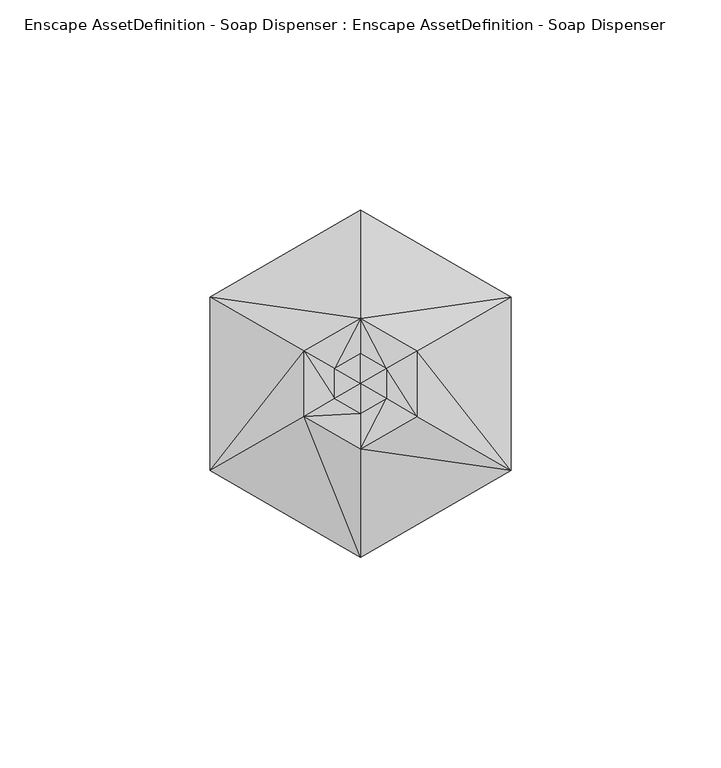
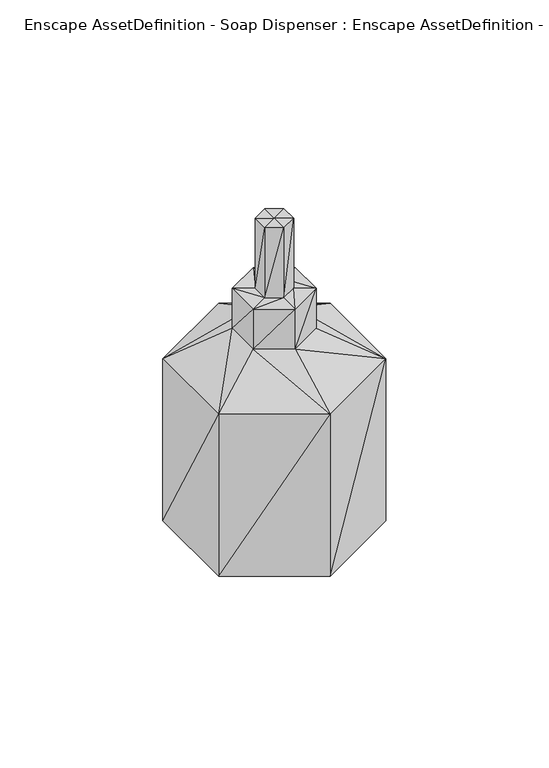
"""IFC4 building model written with IfcOpenShell, lengths in millimetres: geographic element geometry, Enscape AssetDefinition - Soap Dispenser : Enscape AssetDefinition - Soap Dispenser."""

from ifc_helpers import new_model, si_unit, origin, place, context, project, spatial, faceted_brep, source, transform, mapped, element, save


def enscape_assetdefinition_soap_dispenser_enscape_fff8258c(model_context):
    return source(origin(), model_context, "Body", "Brep", [
        faceted_brep([(16.0678644, 9.2767905, 0.0), (35.7406549, 20.6348673, 13.1364549), (16.0678644, -9.2767905, 0.0), (35.7406549, -20.6348673, 13.1364549), (0.0, -18.5535811, 0.0), (0.0, 0.0, 0.0), (0.0, 18.5535811, 0.0), (-16.0678644, -9.2767905, 0.0), (-16.0678644, 9.2767905, 0.0), (0.0, -41.2697494, 13.1364549), (35.7406549, -20.6348673, 86.456202), (35.7406549, 20.6348673, 86.456202), (0.0, -41.2697494, 86.456202), (-35.7406549, -20.634884, 13.1364549), (-35.7406549, 20.6348673, 13.1364549), (-35.7406549, -20.634884, 86.456202), (0.0, -15.5136883, 100.2036631), (-13.4352418, -7.7568442, 100.2036631), (-13.4352418, 7.7568442, 100.2036631), (-35.7406549, 20.6348673, 86.456202), (0.0, 41.2697494, 13.1364549), (0.0, 15.5136883, 100.2036631), (0.0, 41.2697494, 86.456202), (-13.4352418, -7.7568442, 118.2280928), (-13.4352418, 7.7568442, 118.2280928), (0.0, 15.5136883, 118.2280928), (13.4352604, 7.7568442, 100.2036631), (13.4352604, 7.7568442, 118.2280928), (13.4352604, -7.7568442, 100.2036631), (13.4352604, -7.7568442, 118.2280928), (6.1707911, 3.5627142, 118.2280928), (6.1707911, -3.5627142, 118.2280928), (0.0, -15.5136883, 118.2280928), (0.0, -7.1254103, 118.2280928), (6.1707911, -3.5627142, 149.9999911), (6.1707911, 3.5627142, 149.9999911), (0.0, -7.1254103, 149.9999911), (-6.1707911, -3.5627142, 118.2280928), (-6.1707911, -3.5627142, 149.9999911), (-6.1707911, 3.5627142, 118.2280928), (0.0, 0.0, 150.000006), (0.0, 7.1254103, 149.9999911), (-6.1707911, 3.5627142, 149.9999911), (0.0, 7.1254103, 118.2280928)], [[[0, 1, 2]], [[2, 3, 4]], [[5, 0, 2]], [[5, 2, 4]], [[1, 3, 2]], [[5, 6, 0]], [[1, 0, 6]], [[5, 4, 7]], [[5, 8, 6]], [[5, 7, 8]], [[4, 9, 7]], [[3, 9, 4]], [[3, 10, 9]], [[1, 11, 3]], [[11, 10, 3]], [[9, 12, 13]], [[9, 13, 7]], [[10, 12, 9]], [[7, 13, 8]], [[8, 14, 6]], [[13, 14, 8]], [[13, 15, 14]], [[12, 15, 13]], [[16, 17, 12]], [[17, 15, 12]], [[16, 12, 10]], [[17, 18, 15]], [[15, 19, 14]], [[18, 19, 15]], [[14, 19, 20]], [[14, 20, 6]], [[18, 21, 19]], [[19, 22, 20]], [[21, 22, 19]], [[17, 23, 18]], [[18, 24, 21]], [[23, 24, 18]], [[22, 21, 11]], [[21, 25, 26]], [[21, 26, 11]], [[24, 25, 21]], [[20, 22, 1]], [[22, 11, 1]], [[20, 1, 6]], [[11, 26, 10]], [[26, 27, 28]], [[26, 28, 10]], [[25, 27, 26]], [[28, 16, 10]], [[28, 29, 16]], [[27, 29, 28]], [[27, 30, 29]], [[30, 27, 25]], [[29, 31, 32]], [[29, 32, 16]], [[30, 31, 29]], [[16, 32, 17]], [[32, 33, 23]], [[32, 23, 17]], [[31, 33, 32]], [[31, 34, 33]], [[30, 35, 31]], [[35, 34, 31]], [[33, 36, 37]], [[33, 37, 23]], [[34, 36, 33]], [[23, 37, 24]], [[37, 38, 39]], [[37, 39, 24]], [[36, 38, 37]], [[40, 38, 36]], [[40, 36, 34]], [[40, 34, 35]], [[40, 35, 41]], [[41, 35, 30]], [[40, 41, 42]], [[40, 42, 38]], [[38, 42, 39]], [[24, 39, 25]], [[39, 42, 43]], [[39, 43, 25]], [[42, 41, 43]], [[43, 41, 30]], [[43, 30, 25]]]),
    ])


if __name__ == "__main__":
    model = new_model("IFC4")
    model_context = context("Model", 3, world=origin())
    ifc_project = project(units=[si_unit("LENGTHUNIT", "METRE", prefix="MILLI")], contexts=[model_context])
    site = spatial("IfcSite", under=ifc_project)
    building = spatial("IfcBuilding", under=site)
    placement = place(None, origin())
    enscape_assetdefinition_soap_dispenser_enscape_shape = enscape_assetdefinition_soap_dispenser_enscape_fff8258c(model_context)
    element("IfcGeographicElement", 1, ObjectType="Enscape AssetDefinition - Soap Dispenser : Enscape AssetDefinition - Soap Dispenser", at=placement, inside=building, context=model_context, shape_type="MappedRepresentation", body=[
        mapped(enscape_assetdefinition_soap_dispenser_enscape_shape, transform((0.0, 0.0, 0.0), x_axis=(1.0, 0.0, 0.0), y_axis=(0.0, 1.0, 0.0), z_axis=(0.0, 0.0, 1.0))),
    ])
    save(model, "model.ifc")
